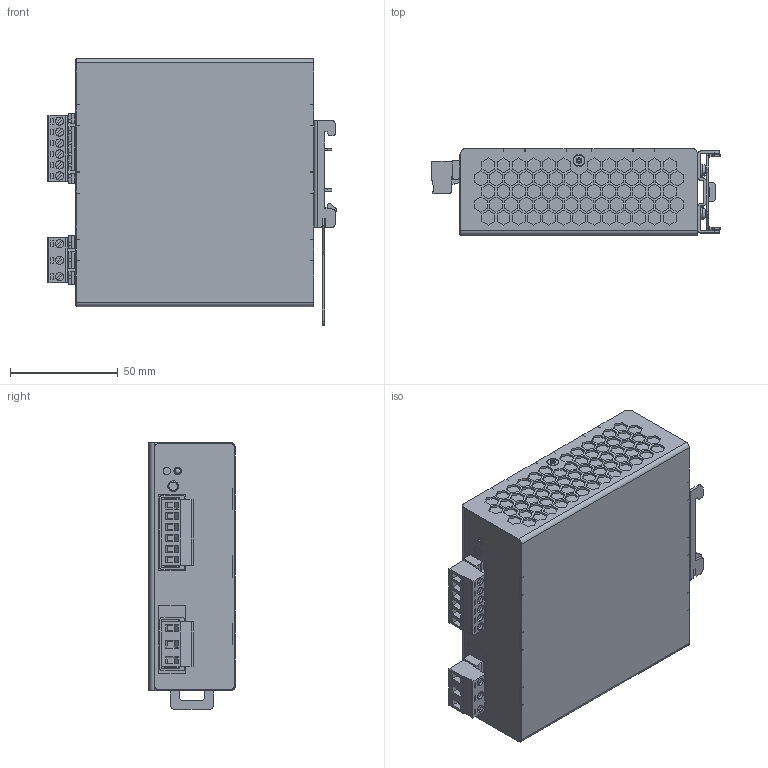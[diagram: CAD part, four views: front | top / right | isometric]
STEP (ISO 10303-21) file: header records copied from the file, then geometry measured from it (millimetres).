
FILE_DESCRIPTION (( 'STEP AP214' ), '1' );
FILE_NAME ('NPSM85_-_NPSM120_3D_light.STEP', '2016-04-27T10:36:07', ( 'miky' ), ( 'Microsoft' ), 'SwSTEP 2.0', 'SolidWorks 2014', '' );
FILE_SCHEMA (( 'AUTOMOTIVE_DESIGN' ));
Length unit declared in the file: millimetre
Products named in the file (1): NPSM85_-_NPSM120_3D_light
Bounding box: 133.79 x 40 x 123.7 mm (x, y, z)
Volume: 514842.8 mm3; surface area: 59315.4 mm2
Topology: 1 solids, 10 shells, 2138 faces, 5774 edges, 3794 vertices
Faces by surface type: plane 1706, cylinder 361, cone 58, bspline 8, torus 4, sphere 1
Entity records: 89272 total; most frequent: CARTESIAN_POINT 12491, ORIENTED_EDGE 11542, DIRECTION 10865, EDGE_CURVE 5771, VECTOR 4721, LINE 4721, VERTEX_POINT 3792, AXIS2_PLACEMENT_3D 3072
